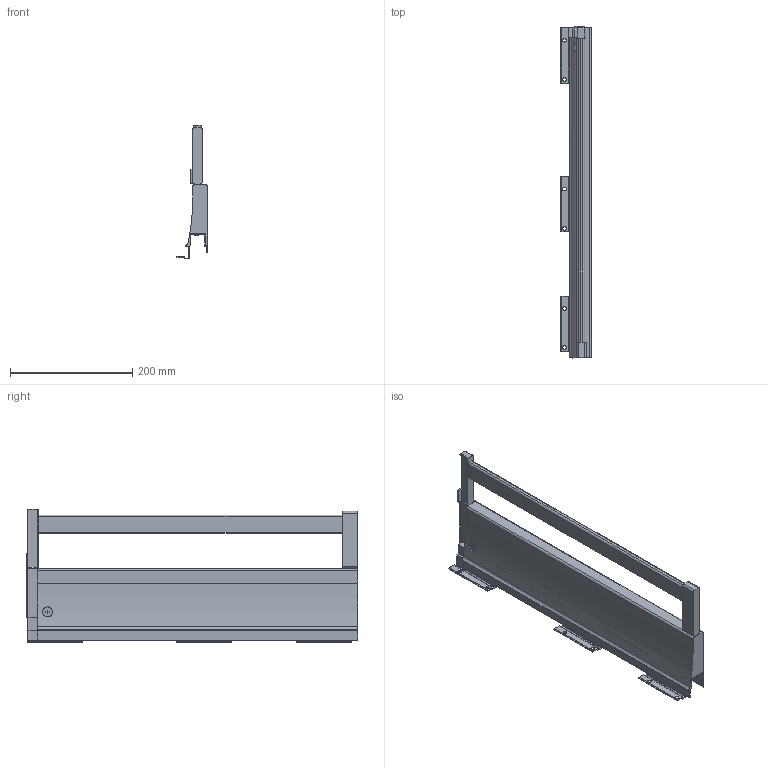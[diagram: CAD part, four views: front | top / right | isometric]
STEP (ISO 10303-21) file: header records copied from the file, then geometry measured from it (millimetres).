
FILE_DESCRIPTION (( 'STEP AP214' ), '1' );
FILE_NAME ('_XP Agantis Dekorseite H127 NL550 RE Rechteckreling.step', '2010-07-08T06:24:18', ( 'grass' ), ( '' ), 'SwSTEP 2.0', 'SolidWorks 2010', '' );
FILE_SCHEMA (( 'AUTOMOTIVE_DESIGN' ));
Length unit declared in the file: millimetre
Products named in the file (1): _XP Agantis Dekorseite H127 NL550 RE Rechteckreling
Bounding box: 50.01 x 542.45 x 219 mm (x, y, z)
Volume: 1387765.4 mm3; surface area: 268305.7 mm2
Topology: 2 solids, 2 shells, 183 faces, 522 edges, 342 vertices
Faces by surface type: plane 142, cylinder 41
Entity records: 6055 total; most frequent: CARTESIAN_POINT 1135, ORIENTED_EDGE 1044, DIRECTION 969, EDGE_CURVE 522, VECTOR 439, LINE 439, VERTEX_POINT 342, AXIS2_PLACEMENT_3D 265
